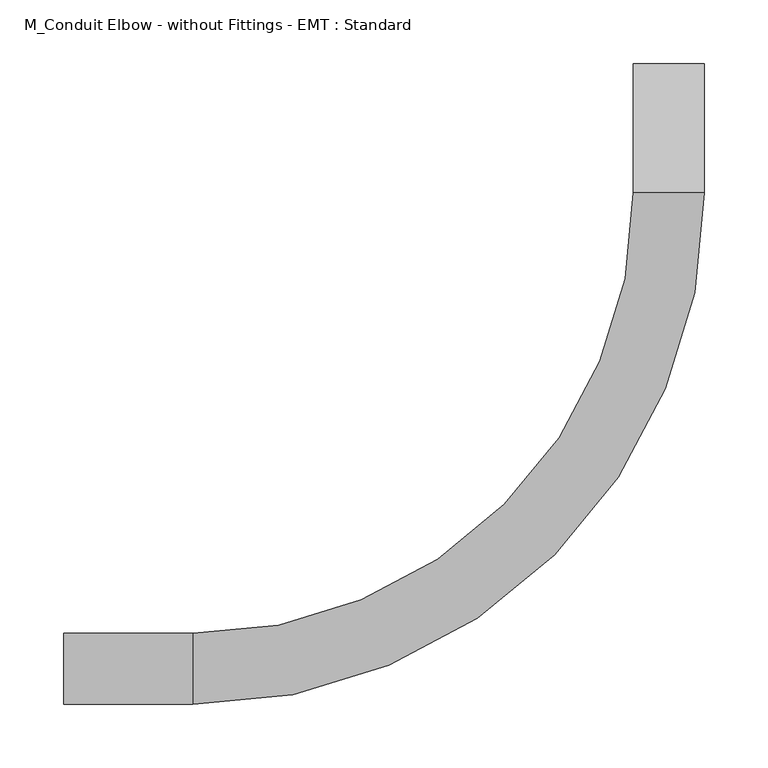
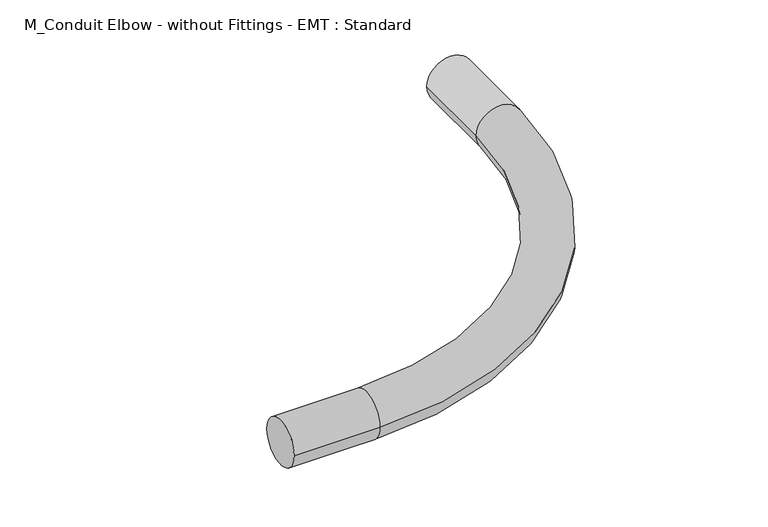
"""IFC4 building model written with IfcOpenShell, lengths in millimetres: cable carrier fitting geometry, M_Conduit Elbow - without Fittings - EMT : Standard."""

from ifc_helpers import new_model, si_unit, point, frame, origin, place, context, project, spatial, circle_curve, ellipse_curve, trimmed, source, transform, mapped, element, save
from ifc_brep_helpers import plane_surface, cylinder_surface, revolved_surface, advanced_brep


def m_conduit_elbow_without_fittings_emt_standard_d9bb421d(model_context):
    return source(origin(), model_context, "Body", "AdvancedBrep", [
        advanced_brep(
        [(-476.25, -27.9019, 0.0), (-476.25, 27.9019, 0.0), (-374.65, -27.9019, 0.0), (-374.65, 27.9019, 0.0), (-27.9019, 374.65, 0.0), (27.9019, 374.65, 0.0), (27.9019, 476.25, 0.0), (-27.9019, 476.25, 0.0)],
        [
            (0, 1, circle_curve(frame((-476.25, 0.0, 0.0), z_axis=(-1.0, 0.0, 0.0), x_axis=(0.0, 1.0, 0.0)), 27.9019)),
            (1, 0, circle_curve(frame((-476.25, 0.0, 0.0), z_axis=(-1.0, 0.0, 0.0), x_axis=(0.0, 1.0, 0.0)), 27.9019)),
            (0, 2),
            (2, 3, circle_curve(frame((-374.65, 0.0, 0.0), z_axis=(-1.0, 0.0, 0.0), x_axis=(0.0, 1.0, 0.0)), 27.9019)),
            (3, 1),
            (3, 2, circle_curve(frame((-374.65, 0.0, 0.0), z_axis=(-1.0, 0.0, 0.0), x_axis=(0.0, 1.0, 0.0)), 27.9019)),
            (4, 3, circle_curve(frame((-374.65, 374.65, 0.0), z_axis=(0.0, 0.0, -1.0), x_axis=(0.0, -1.0, 0.0)), 346.7481)),
            (2, 5, circle_curve(frame((-374.65, 374.65, 0.0), z_axis=(0.0, 0.0, 1.0), x_axis=(0.0, -1.0, 0.0)), 402.5519)),
            (5, 4, circle_curve(frame((0.0, 374.65, 0.0), z_axis=(0.0, -1.0, 0.0), x_axis=(-1.0, 0.0, 0.0)), 27.9019)),
            (4, 5, circle_curve(frame((0.0, 374.65, 0.0), z_axis=(0.0, -1.0, 0.0), x_axis=(-1.0, 0.0, 0.0)), 27.9019)),
            (6, 7, circle_curve(frame((0.0, 476.25, 0.0), z_axis=(0.0, 1.0, 0.0), x_axis=(-1.0, 0.0, 0.0)), 27.9019)),
            (7, 6, circle_curve(frame((0.0, 476.25, 0.0), z_axis=(0.0, 1.0, 0.0), x_axis=(-1.0, 0.0, 0.0)), 27.9019)),
            (5, 6),
            (7, 4),
        ],
        [
            plane_surface(frame((-476.25, 0.0, 0.0), z_axis=(-1.0, 0.0, 0.0), x_axis=(0.0, 0.0, 1.0))),
            cylinder_surface(frame((-476.25, 0.0, 0.0), z_axis=(-1.0, 0.0, 0.0), x_axis=(0.0, 1.0, 0.0)), 27.9019),
            revolved_surface(trimmed(ellipse_curve(frame((-374.65, 0.0, 0.0), z_axis=(-1.0, 0.0, 0.0), x_axis=(0.0, 1.0, 0.0)), 27.9019, 27.9019), [point((-374.65, -27.9019, 0.0))], [point((-374.65, 27.9019, 0.0))], True, "CARTESIAN"), (-374.65, 374.65, 0.0), (0.0, 0.0, 1.0)),
            revolved_surface(trimmed(ellipse_curve(frame((-374.65, 0.0, 0.0), z_axis=(-1.0, 0.0, 0.0), x_axis=(0.0, 1.0, 0.0)), 27.9019, 27.9019), [point((-374.65, 27.9019, 0.0))], [point((-374.65, -27.9019, 0.0))], True, "CARTESIAN"), (-374.65, 374.65, 0.0), (0.0, 0.0, 1.0)),
            plane_surface(frame((0.0, 476.25, 0.0), z_axis=(0.0, 1.0, 0.0), x_axis=(0.0, 0.0, 1.0))),
            cylinder_surface(frame((0.0, 374.65, 0.0), z_axis=(0.0, -1.0, 0.0), x_axis=(-1.0, 0.0, 0.0)), 27.9019),
        ],
        [
            (0, [[1, 2]]),
            (1, [[-1, 3, 4, 5]]),
            (1, [[-2, -5, 6, -3]]),
            (2, [[7, -4, 8, 9]]),
            (3, [[-8, -6, -7, 10]]),
            (4, [[11, 12]]),
            (5, [[-9, 13, -12, 14]]),
            (5, [[-10, -14, -11, -13]]),
        ],
    ),
    ])


if __name__ == "__main__":
    model = new_model("IFC4")
    model_context = context("Model", 3, world=origin())
    ifc_project = project(units=[si_unit("LENGTHUNIT", "METRE", prefix="MILLI")], contexts=[model_context])
    site = spatial("IfcSite", under=ifc_project)
    building = spatial("IfcBuilding", under=site)
    placement = place(None, origin())
    m_conduit_elbow_without_fittings_emt_standard_shape = m_conduit_elbow_without_fittings_emt_standard_d9bb421d(model_context)
    element("IfcCableCarrierFitting", 1, ObjectType="M_Conduit Elbow - without Fittings - EMT : Standard", at=placement, inside=building, context=model_context, shape_type="MappedRepresentation", body=[
        mapped(m_conduit_elbow_without_fittings_emt_standard_shape, transform((0.0, 0.0, 0.0), x_axis=(1.0, 0.0, 0.0), y_axis=(0.0, 1.0, 0.0), z_axis=(0.0, 0.0, 1.0))),
    ])
    save(model, "model.ifc")
